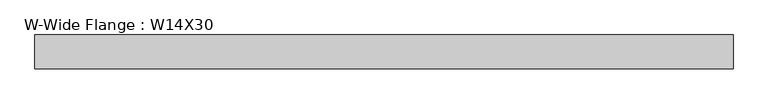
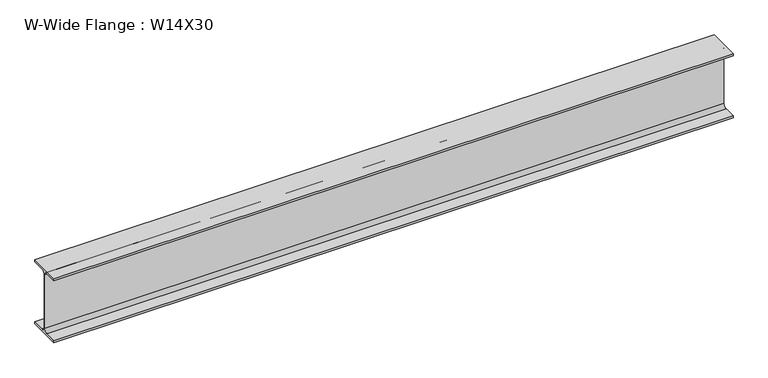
"""IFC4 building model written with IfcOpenShell, lengths in millimetres: beam geometry, W-Wide Flange : W14X30."""

from ifc_helpers import new_model, si_unit, point, frame, frame_2d, origin, place, context, project, spatial, polyline, circle_curve, trimmed, segment, composite_curve, outline, extrude, source, transform, mapped, element, save


def w_wide_flange_w14x30_2022d981(model_context):
    return source(origin(), model_context, "Body", "SweptSolid", [
        extrude(outline(composite_curve([segment(polyline([(85.471, -165.481), (85.471, -175.26), (-85.471, -175.26), (-85.471, -165.481), (-22.225, -165.481)]), True, "CONTINUOUS"), segment(trimmed(circle_curve(frame_2d((-22.225, -146.685)), 18.796), [point((-22.225, -165.481))], [point((-3.429, -146.685))], True, "CARTESIAN"), True, "CONTINUOUS"), segment(polyline([(-3.429, -146.685), (-3.429, 146.685)]), True, "CONTINUOUS"), segment(trimmed(circle_curve(frame_2d((-22.225, 146.685)), 18.796), [point((-3.429, 146.685))], [point((-22.225, 165.481))], True, "CARTESIAN"), True, "CONTINUOUS"), segment(polyline([(-22.225, 165.481), (-85.471, 165.481), (-85.471, 175.26), (85.471, 175.26), (85.471, 165.481), (22.225, 165.481)]), True, "CONTINUOUS"), segment(trimmed(circle_curve(frame_2d((22.225, 146.685)), 18.796), [point((22.225, 165.481))], [point((3.429, 146.685))], True, "CARTESIAN"), True, "CONTINUOUS"), segment(polyline([(3.429, 146.685), (3.429, -146.685)]), True, "CONTINUOUS"), segment(trimmed(circle_curve(frame_2d((22.225, -146.685)), 18.796), [point((3.429, -146.685))], [point((22.225, -165.481))], True, "CARTESIAN"), True, "CONTINUOUS"), segment(polyline([(22.225, -165.481), (85.471, -165.481)]), True, "CONTINUOUS")], self_intersect=False)), frame((-1657.8365916, 0.0, 0.0), z_axis=(1.0, 0.0, 0.0), x_axis=(0.0, 1.0, 0.0)), (0.0, 0.0, 1.0), 3521.1389716),
    ])


if __name__ == "__main__":
    model = new_model("IFC4")
    model_context = context("Model", 3, world=origin())
    ifc_project = project(units=[si_unit("LENGTHUNIT", "METRE", prefix="MILLI")], contexts=[model_context])
    site = spatial("IfcSite", under=ifc_project)
    building = spatial("IfcBuilding", under=site)
    placement = place(None, origin())
    w_wide_flange_w14x30_shape = w_wide_flange_w14x30_2022d981(model_context)
    element("IfcBeam", 1, ObjectType="W-Wide Flange : W14X30", at=placement, inside=building, context=model_context, shape_type="MappedRepresentation", body=[
        mapped(w_wide_flange_w14x30_shape, transform((0.0, 0.0, 0.0), x_axis=(1.0, 0.0, 0.0), y_axis=(0.0, 1.0, 0.0), z_axis=(0.0, 0.0, 1.0))),
    ])
    save(model, "model.ifc")
